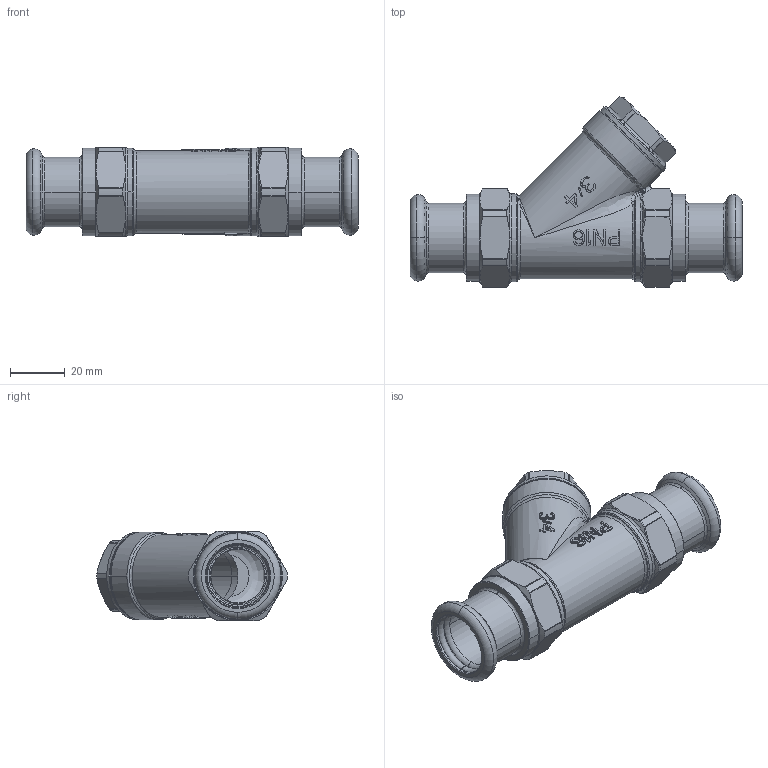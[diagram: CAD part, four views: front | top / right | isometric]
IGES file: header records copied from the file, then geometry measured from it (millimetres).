
Global section: file name: No Iges File Name specified; native system: AutoDesk Inventor R12.0; preprocessor: AutoDesk Inventor Iges Exporter R12.0; date: 20120208.143824; units: millimetre
Bounding box: 121 x 69.41 x 32.5 mm (x, y, z)
Volume: 46432.6 mm3; surface area: 36466 mm2
Topology: 1 solids, 2 shells, 636 faces, 1634 edges, 1025 vertices
Faces by surface type: bspline 208, plane 145, revolution 104, cylinder 90, cone 50, torus 29, sphere 10
